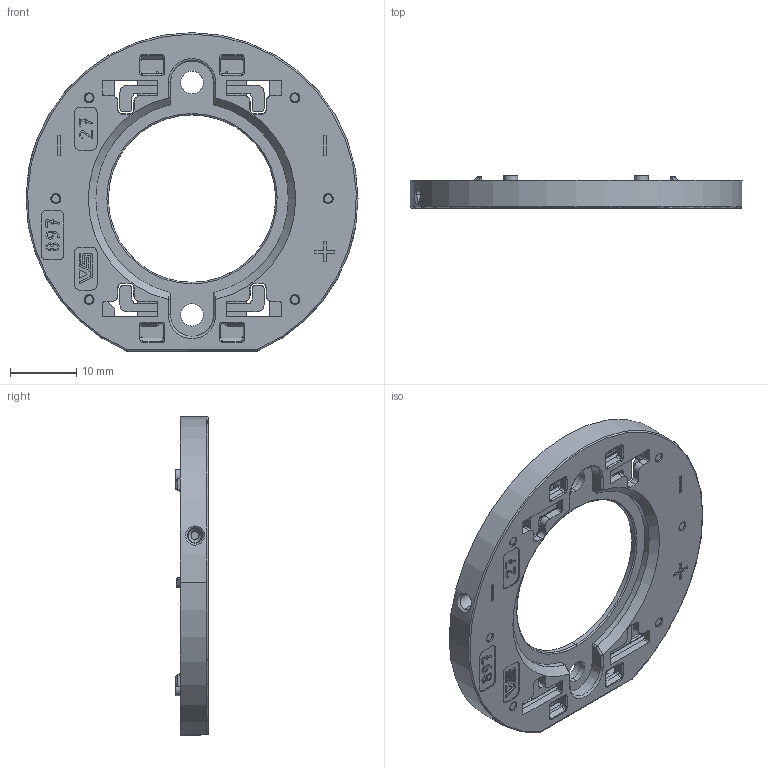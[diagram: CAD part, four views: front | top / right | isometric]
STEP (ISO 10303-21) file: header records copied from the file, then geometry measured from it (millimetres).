
FILE_DESCRIPTION(('Creo Elements/Direct Modeling STEP Export'),'2;1');
FILE_NAME('89727.stp','2019-07-04T10:06:37',(''),(''),'Creo Elements/Direct Modeling STEP processor for AP214 (Solid Model)','Creo Elements/Direct Modeling 20.0D 25-Aug-2018 (C) Parametric Technology GmbH','');
FILE_SCHEMA(('AUTOMOTIVE_DESIGN { 1 0 10303 214 1 1 1 1 }'));
Length unit declared in the file: millimetre
Products named in the file (2): mm_89727_11846V4_569844_luga_shop_comfortlin
Assembly tree (1 placements, depth 2):
  mm_89727_11846V4_569844_luga_shop_comfortlin
    mm_89727_11846V4_569844_luga_shop_comfortlin
Bounding box: 50 x 4.9 x 48 mm (x, y, z)
Volume: 4035.2 mm3; surface area: 5985.1 mm2
Topology: 1 solids, 1 shells, 1679 faces, 4558 edges, 2865 vertices
Faces by surface type: plane 702, cylinder 490, bspline 329, torus 61, cone 60, sphere 36, extrusion 1
Entity records: 102945 total; most frequent: CARTESIAN_POINT 64442, ORIENTED_EDGE 9036, DIRECTION 6656, EDGE_CURVE 4518, VERTEX_POINT 2865, VECTOR 2298, LINE 2297, AXIS2_PLACEMENT_3D 2179
